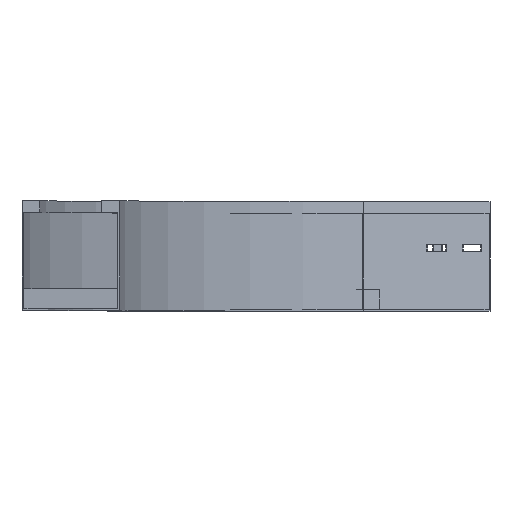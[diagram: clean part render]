
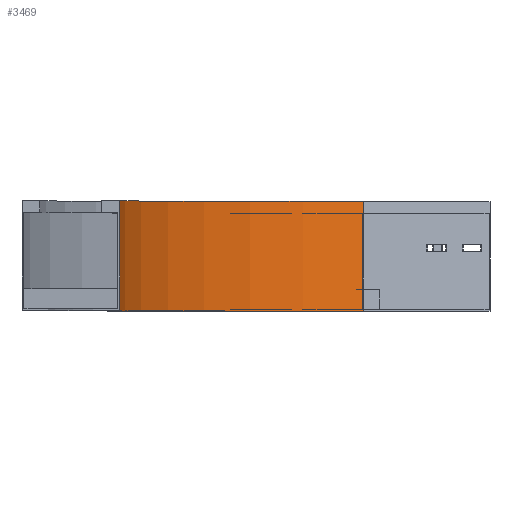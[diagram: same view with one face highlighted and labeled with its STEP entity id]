
A CAD part, top view. The second image highlights one B-rep face of the part: STEP entity #3469.
In plain terms, the highlighted cylindrical face has radius 500 mm (diameter 1000 mm), a partial arc.
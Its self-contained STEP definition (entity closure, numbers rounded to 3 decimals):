
#58 = CARTESIAN_POINT ( 'NONE',  ( 0., 0., -150. ) ) ;
#149 = EDGE_CURVE ( 'NONE', #3035, #616, #2995, .T. ) ;
#163 = DIRECTION ( 'NONE',  ( 0., -1., 0. ) ) ;
#229 = CARTESIAN_POINT ( 'NONE',  ( 250., 112.5, -583.013 ) ) ;
#273 = EDGE_CURVE ( 'NONE', #3035, #3275, #1663, .T. ) ;
#320 = ORIENTED_EDGE ( 'NONE', *, *, #273, .T. ) ;
#372 = DIRECTION ( 'NONE',  ( 0., 1., 0. ) ) ;
#616 = VERTEX_POINT ( 'NONE', #3387 ) ;
#1100 = DIRECTION ( 'NONE',  ( -1., 0., 0. ) ) ;
#1655 = DIRECTION ( 'NONE',  ( 0., 0., -1. ) ) ;
#1663 = CIRCLE ( 'NONE', #3031, 500. ) ;
#1701 = CYLINDRICAL_SURFACE ( 'NONE', #2340, 500. ) ;
#1808 = ORIENTED_EDGE ( 'NONE', *, *, #1912, .F. ) ;
#1826 = EDGE_LOOP ( 'NONE', ( #1808, #2274, #320, #3490 ) ) ;
#1882 = CARTESIAN_POINT ( 'NONE',  ( 0., 0., -150. ) ) ;
#1912 = EDGE_CURVE ( 'NONE', #616, #2820, #3652, .T. ) ;
#1949 = LINE ( 'NONE', #2262, #2047 ) ;
#1985 = AXIS2_PLACEMENT_3D ( 'NONE', #2568, #163, #1100 ) ;
#1986 = VECTOR ( 'NONE', #372, 1000. ) ;
#1999 = DIRECTION ( 'NONE',  ( 0., -1., 0. ) ) ;
#2000 = CARTESIAN_POINT ( 'NONE',  ( 500., 0., -150. ) ) ;
#2047 = VECTOR ( 'NONE', #3121, 1000. ) ;
#2262 = CARTESIAN_POINT ( 'NONE',  ( 250., 0., -583.013 ) ) ;
#2274 = ORIENTED_EDGE ( 'NONE', *, *, #149, .F. ) ;
#2340 = AXIS2_PLACEMENT_3D ( 'NONE', #2828, #1999, #1655 ) ;
#2568 = CARTESIAN_POINT ( 'NONE',  ( 500., 112.5, -150. ) ) ;
#2755 = EDGE_CURVE ( 'NONE', #3275, #2820, #1949, .T. ) ;
#2820 = VERTEX_POINT ( 'NONE', #229 ) ;
#2828 = CARTESIAN_POINT ( 'NONE',  ( 500., 0., -150. ) ) ;
#2904 = DIRECTION ( 'NONE',  ( 0., -1., 0. ) ) ;
#2918 = CARTESIAN_POINT ( 'NONE',  ( 250., 0., -583.013 ) ) ;
#2995 = LINE ( 'NONE', #1882, #1986 ) ;
#3031 = AXIS2_PLACEMENT_3D ( 'NONE', #2000, #2904, #3738 ) ;
#3035 = VERTEX_POINT ( 'NONE', #58 ) ;
#3121 = DIRECTION ( 'NONE',  ( 0., 1., 0. ) ) ;
#3275 = VERTEX_POINT ( 'NONE', #2918 ) ;
#3387 = CARTESIAN_POINT ( 'NONE',  ( 0., 112.5, -150. ) ) ;
#3469 = ADVANCED_FACE ( 'NONE', ( #3758 ), #1701, .F. ) ;
#3490 = ORIENTED_EDGE ( 'NONE', *, *, #2755, .T. ) ;
#3652 = CIRCLE ( 'NONE', #1985, 500. ) ;
#3738 = DIRECTION ( 'NONE',  ( -1., 0., 0. ) ) ;
#3758 = FACE_OUTER_BOUND ( 'NONE', #1826, .T. ) ;
